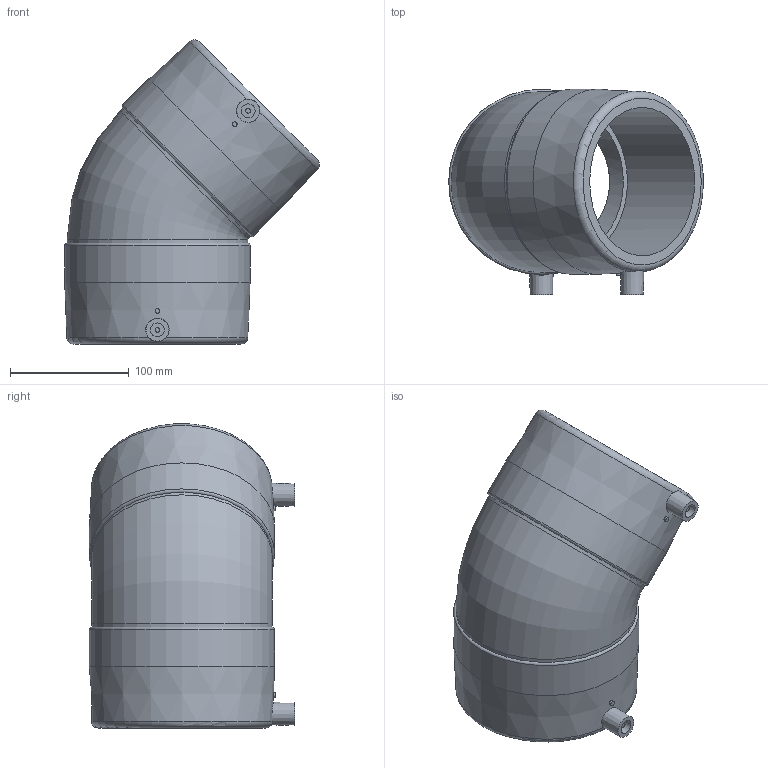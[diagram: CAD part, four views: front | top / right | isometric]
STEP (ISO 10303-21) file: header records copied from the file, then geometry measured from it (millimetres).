
FILE_DESCRIPTION(/* description */ ('Unknown'),/* implementation_level */ '2;1');
FILE_NAME(/* name */ 'GE4P125C',/* time_stamp */ '2020-12-02T09:54:31+01:00',/* author */ ('Unknown'),/* organization */ ('Unknown'),/* preprocessor_version */ 'ST-DEVELOPER v16.7',/* originating_system */ 'Solid Edge',/* authorisation */ 'Unknown');
FILE_SCHEMA (('AUTOMOTIVE_DESIGN {1 0 10303 214 3 1 1}'));
Length unit declared in the file: millimetre
Products named in the file (1): GE4P125C
Bounding box: 214.24 x 173 x 256.07 mm (x, y, z)
Volume: 1652280 mm3; surface area: 223213.9 mm2
Topology: 1 solids, 1 shells, 36 faces, 78 edges, 52 vertices
Faces by surface type: cylinder 14, plane 12, torus 6, cone 4
Full cylindrical faces by diameter (mm): 4 x4, 11.6 x2, 115 x2, 125 x2, 152 x2, 156 x2
Entity records: 852 total; most frequent: CARTESIAN_POINT 186, DIRECTION 140, ORIENTED_EDGE 86, AXIS2_PLACEMENT_3D 70, EDGE_LOOP 69, FACE_BOUND 69, EDGE_CURVE 43, VERTEX_POINT 40
